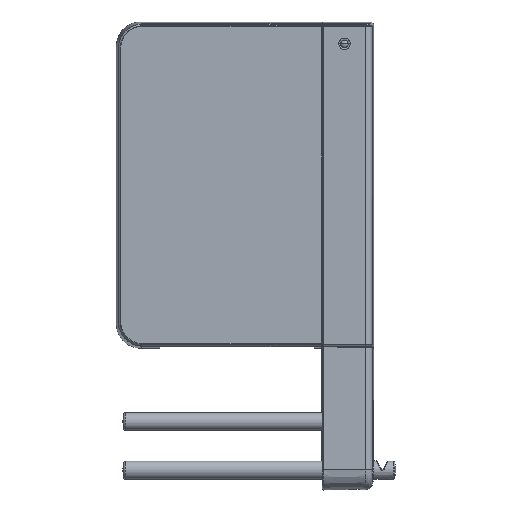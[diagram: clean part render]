
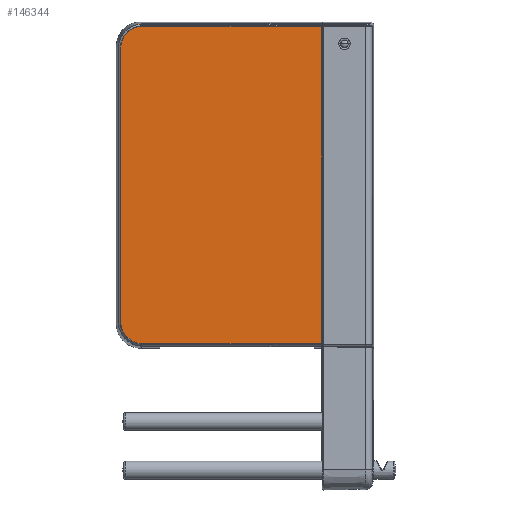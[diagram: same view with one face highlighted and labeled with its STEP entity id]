
A CAD part, top view. The second image highlights one B-rep face of the part: STEP entity #146344.
In plain terms, the highlighted planar face has unit normal (0, 0, 1).
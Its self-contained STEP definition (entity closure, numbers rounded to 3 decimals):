
#146316 = VERTEX_POINT('',#146317);
#146317 = CARTESIAN_POINT('',(94.452,-213.989,49.5));
#146326 = VERTEX_POINT('',#146327);
#146327 = CARTESIAN_POINT('',(94.452,176.989,49.5));
#146334 = EDGE_CURVE('',#146326,#146316,#146335,.T.);
#146335 = LINE('',#146336,#146337);
#146336 = CARTESIAN_POINT('',(94.452,176.989,49.5));
#146337 = VECTOR('',#146338,1.);
#146338 = DIRECTION('',(0.,-1.,0.));
#146344 = ADVANCED_FACE('',(#146345),#146428,.T.);
#146345 = FACE_BOUND('',#146346,.F.);
#146346 = EDGE_LOOP('',(#146347,#146348,#146360,#146368,#146385,#146393,
    #146410,#146418));
#146347 = ORIENTED_EDGE('',*,*,#146334,.T.);
#146348 = ORIENTED_EDGE('',*,*,#146349,.F.);
#146349 = EDGE_CURVE('',#146350,#146316,#146352,.T.);
#146350 = VERTEX_POINT('',#146351);
#146351 = CARTESIAN_POINT('',(94.3,-214.507,49.5));
#146352 = B_SPLINE_CURVE_WITH_KNOTS('',3,(#146353,#146354,#146355,
    #146356,#146357,#146358,#146359),.UNSPECIFIED.,.F.,.F.,(4,1,1,1,4),(
    0.,0.25,0.5,0.75,1.),.QUASI_UNIFORM_KNOTS.);
#146353 = CARTESIAN_POINT('',(94.3,-214.507,49.5));
#146354 = CARTESIAN_POINT('',(94.322,-214.477,49.5));
#146355 = CARTESIAN_POINT('',(94.361,-214.411,49.5));
#146356 = CARTESIAN_POINT('',(94.41,-214.291,49.5));
#146357 = CARTESIAN_POINT('',(94.443,-214.151,49.5));
#146358 = CARTESIAN_POINT('',(94.452,-214.045,49.5));
#146359 = CARTESIAN_POINT('',(94.452,-213.989,49.5));
#146360 = ORIENTED_EDGE('',*,*,#146361,.F.);
#146361 = EDGE_CURVE('',#146362,#146350,#146364,.T.);
#146362 = VERTEX_POINT('',#146363);
#146363 = CARTESIAN_POINT('',(-126.579,-214.507,49.5));
#146364 = LINE('',#146365,#146366);
#146365 = CARTESIAN_POINT('',(-126.579,-214.507,49.5));
#146366 = VECTOR('',#146367,1.);
#146367 = DIRECTION('',(1.,0.,0.));
#146368 = ORIENTED_EDGE('',*,*,#146369,.F.);
#146369 = EDGE_CURVE('',#146370,#146362,#146372,.T.);
#146370 = VERTEX_POINT('',#146371);
#146371 = CARTESIAN_POINT('',(-153.507,-187.578,49.5));
#146372 = B_SPLINE_CURVE_WITH_KNOTS('',3,(#146373,#146374,#146375,
    #146376,#146377,#146378,#146379,#146380,#146381,#146382,#146383,
    #146384),.UNSPECIFIED.,.F.,.F.,(4,1,1,1,1,1,1,1,1,4),(0.,
    0.111,0.222,0.333,0.444,
    0.556,0.667,0.778,0.889,1.),
  .UNSPECIFIED.);
#146373 = CARTESIAN_POINT('',(-153.507,-187.578,49.5));
#146374 = CARTESIAN_POINT('',(-153.51,-189.322,49.5));
#146375 = CARTESIAN_POINT('',(-153.171,-192.698,49.5));
#146376 = CARTESIAN_POINT('',(-151.822,-197.392,49.5));
#146377 = CARTESIAN_POINT('',(-149.618,-201.828,49.5));
#146378 = CARTESIAN_POINT('',(-146.654,-205.769,49.5));
#146379 = CARTESIAN_POINT('',(-142.999,-209.128,49.5));
#146380 = CARTESIAN_POINT('',(-138.831,-211.729,49.5));
#146381 = CARTESIAN_POINT('',(-134.508,-213.448,49.5));
#146382 = CARTESIAN_POINT('',(-130.319,-214.35,49.5));
#146383 = CARTESIAN_POINT('',(-127.791,-214.51,49.5));
#146384 = CARTESIAN_POINT('',(-126.579,-214.507,49.5));
#146385 = ORIENTED_EDGE('',*,*,#146386,.F.);
#146386 = EDGE_CURVE('',#146387,#146370,#146389,.T.);
#146387 = VERTEX_POINT('',#146388);
#146388 = CARTESIAN_POINT('',(-153.507,150.579,49.5));
#146389 = LINE('',#146390,#146391);
#146390 = CARTESIAN_POINT('',(-153.507,150.579,49.5));
#146391 = VECTOR('',#146392,1.);
#146392 = DIRECTION('',(0.,-1.,0.));
#146393 = ORIENTED_EDGE('',*,*,#146394,.F.);
#146394 = EDGE_CURVE('',#146395,#146387,#146397,.T.);
#146395 = VERTEX_POINT('',#146396);
#146396 = CARTESIAN_POINT('',(-126.578,177.507,49.5));
#146397 = B_SPLINE_CURVE_WITH_KNOTS('',3,(#146398,#146399,#146400,
    #146401,#146402,#146403,#146404,#146405,#146406,#146407,#146408,
    #146409),.UNSPECIFIED.,.F.,.F.,(4,1,1,1,1,1,1,1,1,4),(0.,
    0.111,0.222,0.333,0.444,
    0.556,0.667,0.778,0.889,1.),
  .UNSPECIFIED.);
#146398 = CARTESIAN_POINT('',(-126.578,177.507,49.5));
#146399 = CARTESIAN_POINT('',(-128.322,177.51,49.5));
#146400 = CARTESIAN_POINT('',(-131.698,177.171,49.5));
#146401 = CARTESIAN_POINT('',(-136.392,175.822,49.5));
#146402 = CARTESIAN_POINT('',(-140.828,173.618,49.5));
#146403 = CARTESIAN_POINT('',(-144.769,170.654,49.5));
#146404 = CARTESIAN_POINT('',(-148.128,166.999,49.5));
#146405 = CARTESIAN_POINT('',(-150.729,162.831,49.5));
#146406 = CARTESIAN_POINT('',(-152.448,158.508,49.5));
#146407 = CARTESIAN_POINT('',(-153.35,154.319,49.5));
#146408 = CARTESIAN_POINT('',(-153.51,151.791,49.5));
#146409 = CARTESIAN_POINT('',(-153.507,150.579,49.5));
#146410 = ORIENTED_EDGE('',*,*,#146411,.F.);
#146411 = EDGE_CURVE('',#146412,#146395,#146414,.T.);
#146412 = VERTEX_POINT('',#146413);
#146413 = CARTESIAN_POINT('',(94.3,177.507,49.5));
#146414 = LINE('',#146415,#146416);
#146415 = CARTESIAN_POINT('',(94.3,177.507,49.5));
#146416 = VECTOR('',#146417,1.);
#146417 = DIRECTION('',(-1.,0.,0.));
#146418 = ORIENTED_EDGE('',*,*,#146419,.T.);
#146419 = EDGE_CURVE('',#146412,#146326,#146420,.T.);
#146420 = B_SPLINE_CURVE_WITH_KNOTS('',3,(#146421,#146422,#146423,
    #146424,#146425,#146426,#146427),.UNSPECIFIED.,.F.,.F.,(4,1,1,1,4),(
    0.,0.25,0.5,0.75,1.),.QUASI_UNIFORM_KNOTS.);
#146421 = CARTESIAN_POINT('',(94.3,177.507,49.5));
#146422 = CARTESIAN_POINT('',(94.322,177.477,49.5));
#146423 = CARTESIAN_POINT('',(94.361,177.411,49.5));
#146424 = CARTESIAN_POINT('',(94.41,177.29,49.5));
#146425 = CARTESIAN_POINT('',(94.443,177.148,49.5));
#146426 = CARTESIAN_POINT('',(94.452,177.044,49.5));
#146427 = CARTESIAN_POINT('',(94.452,176.989,49.5));
#146428 = PLANE('',#146429);
#146429 = AXIS2_PLACEMENT_3D('',#146430,#146431,#146432);
#146430 = CARTESIAN_POINT('',(0.,0.,49.5));
#146431 = DIRECTION('',(0.,0.,1.));
#146432 = DIRECTION('',(1.,0.,-0.));
